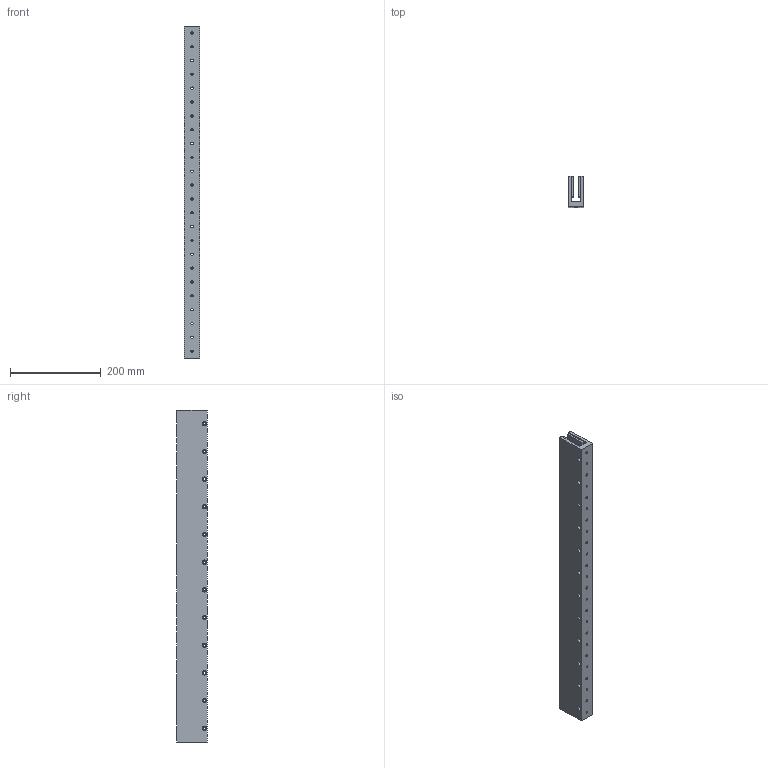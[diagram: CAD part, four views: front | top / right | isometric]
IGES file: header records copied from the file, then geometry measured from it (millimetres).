
Global section: file name: No Iges File Name specified; native system: Autodesk Inventor 2012; preprocessor: AutoDesk Inventor Iges Exporter R2012; author: je17857; date: 20120511.155315; units: inch
Bounding box: 34.29 x 67.31 x 731.27 mm (x, y, z)
Volume: 1078011.7 mm3; surface area: 282325 mm2
Topology: 1 solids, 1 shells, 358 faces, 828 edges, 556 vertices
Faces by surface type: plane 286, revolution 72
